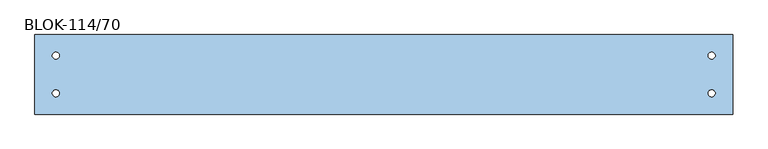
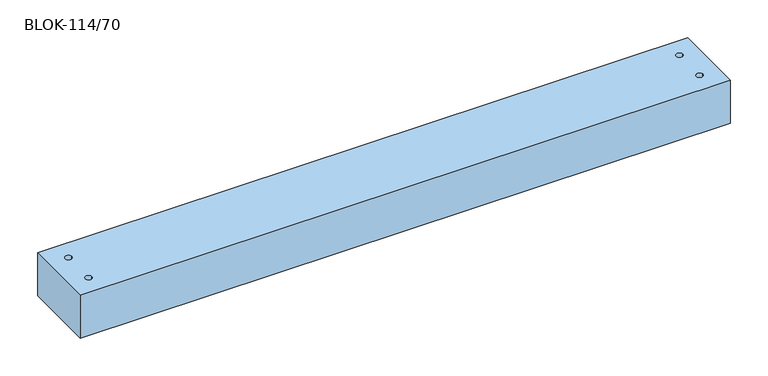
"""IFC4 building model written with IfcOpenShell, lengths in millimetres: window geometry, 30_NS_BLOk : BLOK-114/70."""

import ifcopenshell
import ifcopenshell.guid

model = None  # the IFC model being written
_history = None  # IfcOwnerHistory: only IFC2X3 demands one
_inside = {}  # id of a spatial element -> (the spatial element, [elements in it])
_under = {}  # id of a project, library or spatial element -> (it, [spatial elements below it])
_declared = {}  # id of a project -> (the project, [libraries it declares])
_typed = {}  # id of a type object -> (the type object, [elements of that type])
_made_of = {}  # id of a material, layer set ... -> (it, [elements and type objects made of it])


def new_model(schema):
    """Start an empty IFC model of exactly this schema.

    Asked for "IFC4X3", IfcOpenShell would pick the latest addendum, in which some entities
    have other attributes; the version numbers below select the first issue.
    IFC2X3 requires an IfcOwnerHistory on every rooted entity: one is made here for all.
    """
    global model, _history
    if schema == "IFC4X3":
        model = ifcopenshell.file(schema_version=(4, 3, 0, 0))
    else:
        model = ifcopenshell.file(schema=schema)
    _inside.clear()
    _under.clear()
    _declared.clear()
    _typed.clear()
    _made_of.clear()
    _history = None
    if model.schema == "IFC2X3":
        org = make("IfcOrganization", Name="unknown")
        user = make(
            "IfcPersonAndOrganization",
            ThePerson=make("IfcPerson", FamilyName="unknown"),
            TheOrganization=org,
        )
        app = make(
            "IfcApplication",
            ApplicationDeveloper=org,
            Version="unknown",
            ApplicationFullName="unknown",
            ApplicationIdentifier="unknown",
        )
        _history = make(
            "IfcOwnerHistory",
            OwningUser=user,
            OwningApplication=app,
            ChangeAction="ADDED",
            CreationDate=0,
        )
    return model


def make(cls, **values):
    """One entity of the class cls with the attributes given. An attribute that is None is left unset."""
    return model.create_entity(
        cls, **{name: value for name, value in values.items() if value is not None}
    )


def rooted(cls, **values):
    """An entity with a GlobalId (a new one), such as an element, a storey or a relation."""
    return make(cls, GlobalId=ifcopenshell.guid.new(), OwnerHistory=_history, **values)


def si_unit(unit_type, name, prefix=None):
    """IfcSIUnit, for example si_unit("LENGTHUNIT", "METRE", prefix="MILLI")."""
    return make("IfcSIUnit", UnitType=unit_type, Prefix=prefix, Name=name)


def assignment(units):
    """IfcUnitAssignment: the units of a project."""
    return None if units is None else make("IfcUnitAssignment", Units=units)


def point(xyz):
    """IfcCartesianPoint."""
    return None if xyz is None else make("IfcCartesianPoint", Coordinates=xyz)


def direction(xyz):
    """IfcDirection."""
    return None if xyz is None else make("IfcDirection", DirectionRatios=xyz)


def frame(location, z_axis=None, x_axis=None):
    """IfcAxis2Placement3D, a coordinate frame: its origin and axes. An axis left out is left unset."""
    return make(
        "IfcAxis2Placement3D",
        Location=point(location),
        Axis=direction(z_axis),
        RefDirection=direction(x_axis),
    )


def frame_2d(location, x_axis=None):
    """IfcAxis2Placement2D, a coordinate frame in the plane: its origin and x axis."""
    return make(
        "IfcAxis2Placement2D", Location=point(location), RefDirection=direction(x_axis)
    )


def origin():
    """The frame at (0, 0, 0) with its axes left unset."""
    return frame((0.0, 0.0, 0.0))


def origin_with_axes():
    """The frame at (0, 0, 0) with the z axis (0, 0, 1) and the x axis (1, 0, 0) written out."""
    return frame((0.0, 0.0, 0.0), z_axis=(0.0, 0.0, 1.0), x_axis=(1.0, 0.0, 0.0))


def place(relative_to, where):
    """IfcLocalPlacement: puts the frame where relative to a parent placement (None: the world)."""
    return make(
        "IfcLocalPlacement", PlacementRelTo=relative_to, RelativePlacement=where
    )


def context(
    kind, dimensions, precision=None, world=None, true_north=None, identifier=None
):
    """IfcGeometricRepresentationContext, for example the 3D "Model" context."""
    return make(
        "IfcGeometricRepresentationContext",
        ContextIdentifier=identifier,
        ContextType=kind,
        CoordinateSpaceDimension=dimensions,
        Precision=precision,
        WorldCoordinateSystem=world,
        TrueNorth=true_north,
    )


def project(units=None, contexts=None):
    """IfcProject with its units and contexts."""
    return rooted(
        "IfcProject",
        Name="project",
        RepresentationContexts=contexts,
        UnitsInContext=assignment(units),
    )


def spatial(cls, under=None, at=None, **own):
    """A site, building, storey or space (cls), placed at a placement, below another one or the project."""
    s = rooted(cls, ObjectPlacement=at, **own)
    if under is not None:
        _under.setdefault(under.id(), (under, []))[1].append(s)
    return s


def polyline(points):
    """IfcPolyline through the points."""
    return make("IfcPolyline", Points=[point(p) for p in points])


def circle_curve(where, radius):
    """IfcCircle in the frame where."""
    return make("IfcCircle", Position=where, Radius=radius)


def trimmed(basis, trim1, trim2, sense, master):
    """IfcTrimmedCurve: the piece of a basis curve between two trims."""
    return make(
        "IfcTrimmedCurve",
        BasisCurve=basis,
        Trim1=trim1,
        Trim2=trim2,
        SenseAgreement=sense,
        MasterRepresentation=master,
    )


def segment(curve, same_sense, transition):
    """IfcCompositeCurveSegment."""
    return make(
        "IfcCompositeCurveSegment",
        Transition=transition,
        SameSense=same_sense,
        ParentCurve=curve,
    )


def composite_curve(segments, self_intersect=None):
    """IfcCompositeCurve: segments joined end to end."""
    return make("IfcCompositeCurve", Segments=segments, SelfIntersect=self_intersect)


def outline(outer, holes=None, kind="AREA"):
    """IfcArbitraryClosedProfileDef: a profile drawn as a closed curve; with holes, ...WithVoids."""
    if holes is None:
        return make("IfcArbitraryClosedProfileDef", ProfileType=kind, OuterCurve=outer)
    return make(
        "IfcArbitraryProfileDefWithVoids",
        ProfileType=kind,
        OuterCurve=outer,
        InnerCurves=holes,
    )


def extrude(swept, where, along, depth):
    """IfcExtrudedAreaSolid: the profile swept, set in the frame where, extruded along a direction by depth."""
    return make(
        "IfcExtrudedAreaSolid",
        SweptArea=swept,
        Position=where,
        ExtrudedDirection=direction(along),
        Depth=depth,
    )


def shape(context_of_items, identifier, shape_type, items):
    """IfcShapeRepresentation: the items that make up one representation, for example the "Body"."""
    return make(
        "IfcShapeRepresentation",
        ContextOfItems=context_of_items,
        RepresentationIdentifier=identifier,
        RepresentationType=shape_type,
        Items=items,
    )


def source(mapping_origin, context_of_items, identifier, shape_type, items):
    """IfcRepresentationMap: a shape defined once, which mapped items show again and again."""
    return make(
        "IfcRepresentationMap",
        MappingOrigin=mapping_origin,
        MappedRepresentation=shape(context_of_items, identifier, shape_type, items),
    )


def transform(
    local_origin,
    x_axis=None,
    y_axis=None,
    z_axis=None,
    scale=None,
    scale2=None,
    scale3=None,
    uniform=True,
):
    """IfcCartesianTransformationOperator3D, or its non-uniform kind. x_axis, y_axis, z_axis: its Axis1, 2, 3."""
    if uniform:
        return make(
            "IfcCartesianTransformationOperator3D",
            Axis1=direction(x_axis),
            Axis2=direction(y_axis),
            LocalOrigin=point(local_origin),
            Scale=scale,
            Axis3=direction(z_axis),
        )
    return make(
        "IfcCartesianTransformationOperator3DnonUniform",
        Axis1=direction(x_axis),
        Axis2=direction(y_axis),
        LocalOrigin=point(local_origin),
        Scale=scale,
        Axis3=direction(z_axis),
        Scale2=scale2,
        Scale3=scale3,
    )


def mapped(mapping_source, mapping_target):
    """IfcMappedItem: shows the shape of a source again, moved by a transform."""
    return make(
        "IfcMappedItem", MappingSource=mapping_source, MappingTarget=mapping_target
    )


def made_of(thing, what):
    """Note that an element or type object is made of a material, layer set ...; save() writes the relation."""
    if what is not None:
        _made_of.setdefault(what.id(), (what, []))[1].append(thing)
    return thing


def element(
    cls,
    number,
    at=None,
    inside=None,
    cuts=None,
    type_object=None,
    material=None,
    context=None,
    identifier="Body",
    shape_type=None,
    held_by="IfcProductDefinitionShape",
    body=None,
    shapes=None,
    **own,
):
    """One element of the class cls, such as IfcWall. Its Tag is "e" and its number.

    at: its placement. inside: the storey or other place that contains it. cuts: it is an
    opening in that element (IfcRelVoidsElement). A single representation is given by context,
    identifier, shape_type and body (its items); several are given by shapes. held_by: the class
    of the entity that holds the representations. save() writes the other relations.
    """
    e = rooted(cls, Tag="e%d" % number, ObjectPlacement=at, **own)
    if body is not None:
        shapes = [shape(context, identifier, shape_type, body)]
    if shapes is not None:
        e.Representation = make(held_by, Representations=shapes)
    if inside is not None:
        _inside.setdefault(inside.id(), (inside, []))[1].append(e)
    if cuts is not None:
        rooted(
            "IfcRelVoidsElement", RelatingBuildingElement=cuts, RelatedOpeningElement=e
        )
    if type_object is not None:
        _typed.setdefault(type_object.id(), (type_object, []))[1].append(e)
    return made_of(e, material)


def aggregate(whole, parts):
    """IfcRelAggregates: a whole, such as a stair, and the parts it consists of."""
    return rooted("IfcRelAggregates", RelatingObject=whole, RelatedObjects=parts)


def save(model, path):
    """Write the relations noted so far, then the file.

    IfcRelAggregates (storeys below a building ...), IfcRelContainedInSpatialStructure (elements
    in a storey), IfcRelDefinesByType, IfcRelAssociatesMaterial and IfcRelDeclares: one each for
    every whole, place, type object, material and project.
    """
    for whole, parts in _under.values():
        aggregate(whole, parts)
    for where, things in _inside.values():
        rooted(
            "IfcRelContainedInSpatialStructure",
            RelatedElements=things,
            RelatingStructure=where,
        )
    for kind, things in _typed.values():
        rooted("IfcRelDefinesByType", RelatedObjects=things, RelatingType=kind)
    for what, things in _made_of.values():
        rooted("IfcRelAssociatesMaterial", RelatedObjects=things, RelatingMaterial=what)
    for by, libraries in _declared.values():
        rooted("IfcRelDeclares", RelatingContext=by, RelatedDefinitions=libraries)
    model.write(path)


def blok_114_70_3e13b644(model_context):
    return source(origin(), model_context, "Body", "SweptSolid", [
        extrude(outline(polyline([(0.0, -114.0), (0.0, 0.0), (1000.0, 0.0), (1000.0, -114.0), (0.0, -114.0)]), holes=[composite_curve([segment(trimmed(circle_curve(frame_2d((30.0, -84.0)), 5.0), [point((25.0, -84.0))], [point((35.0, -84.0))], True, "CARTESIAN"), True, "CONTINUOUS"), segment(trimmed(circle_curve(frame_2d((30.0, -84.0)), 5.0), [point((35.0, -84.0))], [point((25.0, -84.0))], True, "CARTESIAN"), True, "CONTINUOUS")], self_intersect=False), composite_curve([segment(trimmed(circle_curve(frame_2d((30.0, -30.0)), 5.0), [point((25.0, -30.0))], [point((35.0, -30.0))], True, "CARTESIAN"), True, "CONTINUOUS"), segment(trimmed(circle_curve(frame_2d((30.0, -30.0)), 5.0), [point((35.0, -30.0))], [point((25.0, -30.0))], True, "CARTESIAN"), True, "CONTINUOUS")], self_intersect=False), composite_curve([segment(trimmed(circle_curve(frame_2d((970.0, -84.0)), 5.0), [point((965.0, -84.0))], [point((975.0, -84.0))], True, "CARTESIAN"), True, "CONTINUOUS"), segment(trimmed(circle_curve(frame_2d((970.0, -84.0)), 5.0), [point((975.0, -84.0))], [point((965.0, -84.0))], True, "CARTESIAN"), True, "CONTINUOUS")], self_intersect=False), composite_curve([segment(trimmed(circle_curve(frame_2d((970.0, -30.0)), 5.0), [point((965.0, -30.0))], [point((975.0, -30.0))], True, "CARTESIAN"), True, "CONTINUOUS"), segment(trimmed(circle_curve(frame_2d((970.0, -30.0)), 5.0), [point((975.0, -30.0))], [point((965.0, -30.0))], True, "CARTESIAN"), True, "CONTINUOUS")], self_intersect=False)]), origin_with_axes(), (0.0, 0.0, 1.0), 70.0),
    ])


if __name__ == "__main__":
    model = new_model("IFC4")
    model_context = context("Model", 3, world=origin())
    ifc_project = project(units=[si_unit("LENGTHUNIT", "METRE", prefix="MILLI")], contexts=[model_context])
    site = spatial("IfcSite", under=ifc_project)
    building = spatial("IfcBuilding", under=site)
    placement = place(None, origin())
    blok_114_70_shape = blok_114_70_3e13b644(model_context)
    element("IfcWindow", 1, ObjectType="30_NS_BLOk : BLOK-114/70", at=placement, inside=building, context=model_context, shape_type="MappedRepresentation", body=[
        mapped(blok_114_70_shape, transform((0.0, 0.0, 0.0), x_axis=(1.0, 0.0, 0.0), y_axis=(0.0, 1.0, 0.0), z_axis=(0.0, 0.0, 1.0))),
    ])
    save(model, "model.ifc")
